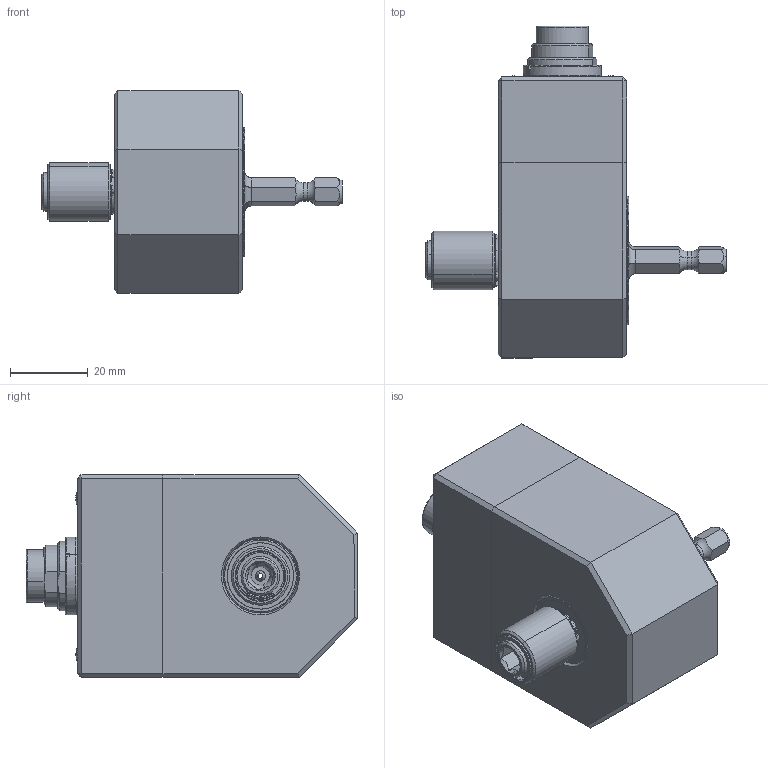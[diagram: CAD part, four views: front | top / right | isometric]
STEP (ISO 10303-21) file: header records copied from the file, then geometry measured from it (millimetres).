
FILE_DESCRIPTION (( 'STEP AP203' ), '1' );
FILE_NAME ('DRFSK.STEP', '2010-07-22T08:28:24', ( 'ETH' ), ( '' ), 'SwSTEP 2.0', 'SolidWorks 2010', '' );
FILE_SCHEMA (( 'CONFIG_CONTROL_DESIGN' ));
Length unit declared in the file: millimetre
Products named in the file (1): DRFSK
Bounding box: 77 x 85.11 x 52.03 mm (x, y, z)
Surface area: 20789.8 mm2 (no closed solid volume)
Topology: 0 solids, 17 shells, 291 faces, 779 edges, 507 vertices
Faces by surface type: plane 114, cylinder 64, torus 53, cone 52, sphere 4, bspline 4
Entity records: 11639 total; most frequent: CARTESIAN_POINT 4287, DIRECTION 1637, ORIENTED_EDGE 1360, EDGE_CURVE 779, AXIS2_PLACEMENT_3D 660, VERTEX_POINT 507, CIRCLE 372, EDGE_LOOP 328
